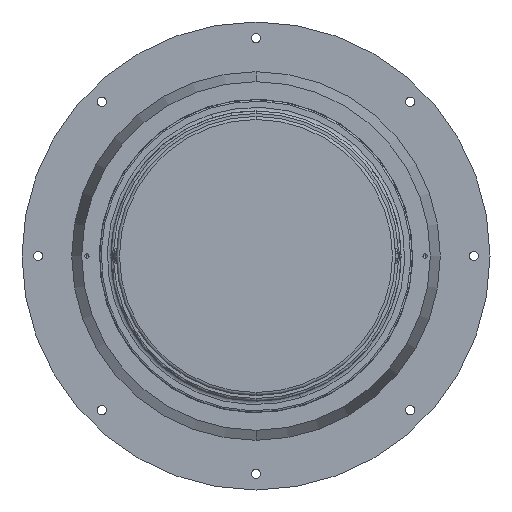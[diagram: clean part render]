
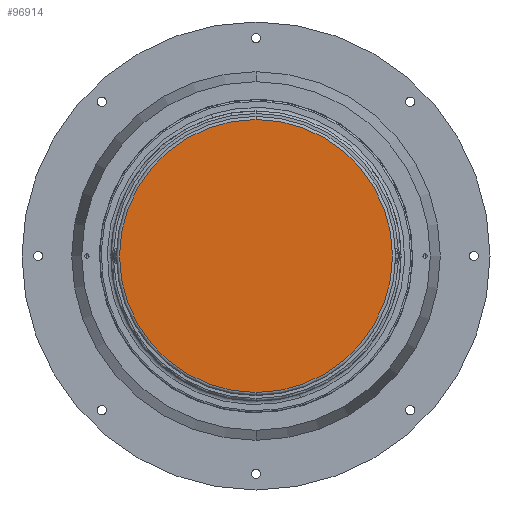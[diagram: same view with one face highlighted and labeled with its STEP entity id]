
A CAD part, front view. The second image highlights one B-rep face of the part: STEP entity #96914.
In plain terms, the highlighted planar face has unit normal (0, -1, 0).
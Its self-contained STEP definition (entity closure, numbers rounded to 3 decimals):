
#3995 = CARTESIAN_POINT ( 'NONE',  ( 0., -800.8, 0. ) ) ;
#4459 = CIRCLE ( 'NONE', #146973, 266.25 ) ;
#16277 = DIRECTION ( 'NONE',  ( 0., 0., 1. ) ) ;
#18467 = EDGE_CURVE ( 'NONE', #152548, #79917, #4459, .T. ) ;
#26171 = EDGE_CURVE ( 'NONE', #79917, #152548, #117987, .T. ) ;
#30254 = CARTESIAN_POINT ( 'NONE',  ( 0., -800.8, 0. ) ) ;
#42552 = DIRECTION ( 'NONE',  ( 0., 0., 1. ) ) ;
#45221 = CARTESIAN_POINT ( 'NONE',  ( -266.25, -800.8, 0. ) ) ;
#45694 = CARTESIAN_POINT ( 'NONE',  ( 0., -800.8, -266.25 ) ) ;
#57503 = DIRECTION ( 'NONE',  ( 0., 0., -1. ) ) ;
#78125 = EDGE_LOOP ( 'NONE', ( #134845, #144524 ) ) ;
#79917 = VERTEX_POINT ( 'NONE', #112299 ) ;
#89383 = DIRECTION ( 'NONE',  ( 0., -1., 0. ) ) ;
#96914 = ADVANCED_FACE ( 'NONE', ( #108541 ), #129981, .T. ) ;
#106983 = AXIS2_PLACEMENT_3D ( 'NONE', #3995, #89383, #16277 ) ;
#108541 = FACE_OUTER_BOUND ( 'NONE', #78125, .T. ) ;
#112299 = CARTESIAN_POINT ( 'NONE',  ( 0., -800.8, 266.25 ) ) ;
#115610 = DIRECTION ( 'NONE',  ( 0., -1., 0. ) ) ;
#117987 = CIRCLE ( 'NONE', #106983, 266.25 ) ;
#128856 = AXIS2_PLACEMENT_3D ( 'NONE', #45221, #130504, #57503 ) ;
#129981 = PLANE ( 'NONE',  #128856 ) ;
#130504 = DIRECTION ( 'NONE',  ( 0., -1., 0. ) ) ;
#134845 = ORIENTED_EDGE ( 'NONE', *, *, #26171, .T. ) ;
#144524 = ORIENTED_EDGE ( 'NONE', *, *, #18467, .T. ) ;
#146973 = AXIS2_PLACEMENT_3D ( 'NONE', #30254, #115610, #42552 ) ;
#152548 = VERTEX_POINT ( 'NONE', #45694 ) ;
